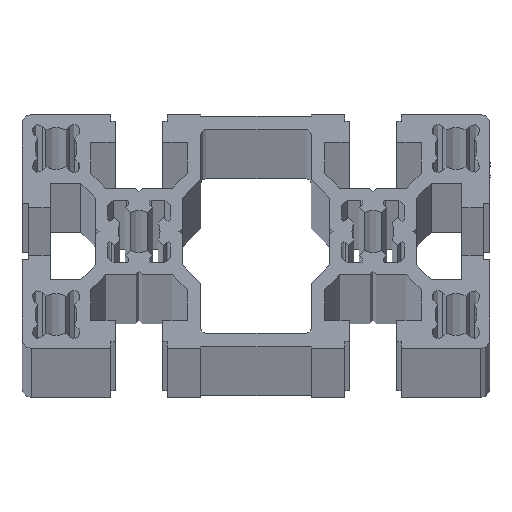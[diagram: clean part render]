
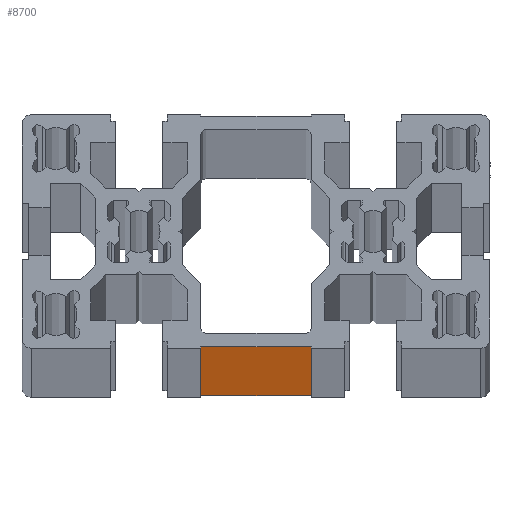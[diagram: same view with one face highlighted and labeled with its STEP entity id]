
A CAD part, top view. The second image highlights one B-rep face of the part: STEP entity #8700.
In plain terms, the highlighted planar face has unit normal (0, -1, 0).
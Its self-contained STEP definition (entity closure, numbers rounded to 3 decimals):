
#192 = LINE ( 'NONE', #5201, #14494 ) ;
#635 = EDGE_LOOP ( 'NONE', ( #2797, #4976, #1244, #9514 ) ) ;
#1244 = ORIENTED_EDGE ( 'NONE', *, *, #6292, .T. ) ;
#1347 = VERTEX_POINT ( 'NONE', #4625 ) ;
#1499 = LINE ( 'NONE', #2199, #7183 ) ;
#1810 = DIRECTION ( 'NONE',  ( 1., 0., 0. ) ) ;
#2199 = CARTESIAN_POINT ( 'NONE',  ( 38.193, 0.393, -6000. ) ) ;
#2753 = DIRECTION ( 'NONE',  ( 1., 0., 0. ) ) ;
#2797 = ORIENTED_EDGE ( 'NONE', *, *, #8195, .F. ) ;
#3124 = PLANE ( 'NONE',  #7253 ) ;
#3343 = DIRECTION ( 'NONE',  ( 0., 0., 1. ) ) ;
#4127 = VECTOR ( 'NONE', #2753, 1000. ) ;
#4268 = DIRECTION ( 'NONE',  ( 0., 0., -1. ) ) ;
#4291 = VECTOR ( 'NONE', #8684, 1000. ) ;
#4625 = CARTESIAN_POINT ( 'NONE',  ( 61.807, 0.393, -6000. ) ) ;
#4976 = ORIENTED_EDGE ( 'NONE', *, *, #5622, .F. ) ;
#5201 = CARTESIAN_POINT ( 'NONE',  ( 50., 0.393, 0. ) ) ;
#5622 = EDGE_CURVE ( 'NONE', #13020, #13679, #1499, .T. ) ;
#5697 = CARTESIAN_POINT ( 'NONE',  ( 61.807, 0.393, 0. ) ) ;
#6292 = EDGE_CURVE ( 'NONE', #13020, #1347, #7162, .T. ) ;
#6979 = VERTEX_POINT ( 'NONE', #5697 ) ;
#7162 = LINE ( 'NONE', #12886, #4127 ) ;
#7183 = VECTOR ( 'NONE', #3343, 1000. ) ;
#7253 = AXIS2_PLACEMENT_3D ( 'NONE', #8775, #11033, #4268 ) ;
#7529 = CARTESIAN_POINT ( 'NONE',  ( 61.807, 0.393, -6000. ) ) ;
#7707 = EDGE_CURVE ( 'NONE', #1347, #6979, #13662, .T. ) ;
#8195 = EDGE_CURVE ( 'NONE', #13679, #6979, #192, .T. ) ;
#8684 = DIRECTION ( 'NONE',  ( 0., 0., 1. ) ) ;
#8700 = ADVANCED_FACE ( 'NONE', ( #11858 ), #3124, .T. ) ;
#8775 = CARTESIAN_POINT ( 'NONE',  ( 50., 0.393, -6000. ) ) ;
#9514 = ORIENTED_EDGE ( 'NONE', *, *, #7707, .T. ) ;
#10447 = CARTESIAN_POINT ( 'NONE',  ( 38.193, 0.393, 0. ) ) ;
#11033 = DIRECTION ( 'NONE',  ( 0., -1., 0. ) ) ;
#11858 = FACE_OUTER_BOUND ( 'NONE', #635, .T. ) ;
#12886 = CARTESIAN_POINT ( 'NONE',  ( 50., 0.393, -6000. ) ) ;
#13020 = VERTEX_POINT ( 'NONE', #13692 ) ;
#13662 = LINE ( 'NONE', #7529, #4291 ) ;
#13679 = VERTEX_POINT ( 'NONE', #10447 ) ;
#13692 = CARTESIAN_POINT ( 'NONE',  ( 38.193, 0.393, -6000. ) ) ;
#14494 = VECTOR ( 'NONE', #1810, 1000. ) ;
